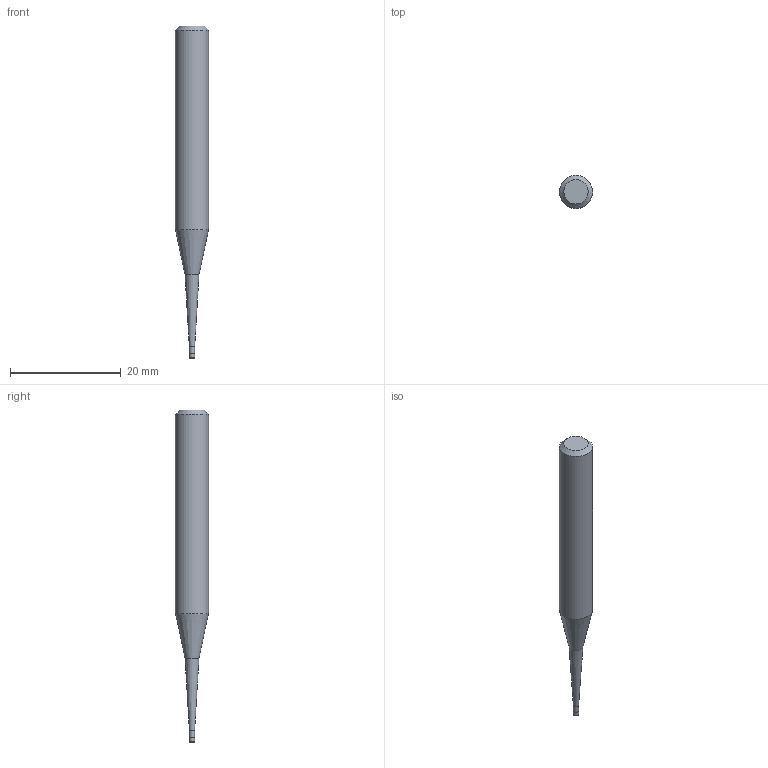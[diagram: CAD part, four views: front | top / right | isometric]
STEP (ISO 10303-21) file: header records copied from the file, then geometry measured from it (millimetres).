
FILE_DESCRIPTION((''),'2;1');
FILE_NAME('C:\Users\nsx150\AppData\Local\Temp\Mastercam 2021\YKS1SUSFZB\TEMP.step','2025-06-23T14:03:55',(''),(''),'STEP Write','Mastercam 2021 ... CNC Software, Inc.','');
FILE_SCHEMA(('AUTOMOTIVE_DESIGN'));
Length unit declared in the file: millimetre
Products named in the file (1): None
Bounding box: 6 x 6 x 60 mm (x, y, z)
Volume: 1192.9 mm3; surface area: 903.9 mm2
Topology: 2 solids, 2 shells, 11 faces, 16 edges, 9 vertices
Faces by surface type: plane 4, cylinder 3, cone 3, torus 1
Full cylindrical faces by diameter (mm): 0.955 x1, 1 x1, 6 x1
Entity records: 253 total; most frequent: DIRECTION 44, CARTESIAN_POINT 31, AXIS2_PLACEMENT_3D 22, ORIENTED_EDGE 18, EDGE_LOOP 18, STYLED_ITEM 14, ADVANCED_FACE 11, FACE_BOUND 11
